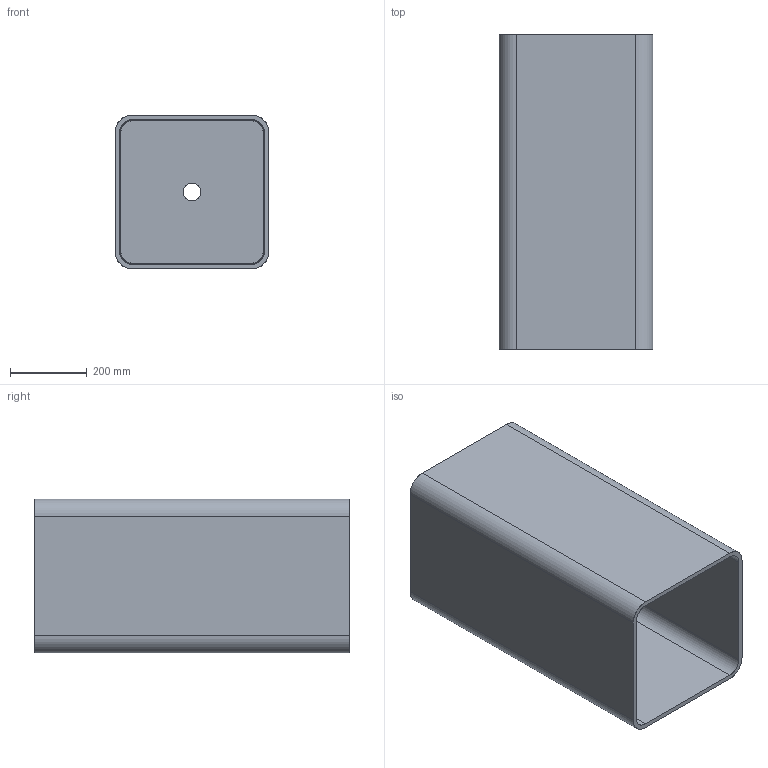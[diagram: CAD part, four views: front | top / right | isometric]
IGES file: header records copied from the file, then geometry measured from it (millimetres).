
Start section: SolidWorks IGES file using analytic representation for surfaces
Global section: file name: C:\Documents and Settings\Administrator\袤醱\new\02髓.IGS,15; native system: HSolidWorks 2010; preprocessor: SolidWorks 2010; author: Administrator; date: 100714.213739; units: millimetre
Bounding box: 400 x 820 x 400 mm (x, y, z)
Surface area: 2665773.9 mm2 (no closed solid volume)
Topology: 0 solids, 0 shells, 62 faces, 2432 edges, 2432 vertices
Faces by surface type: bspline 36, revolution 26
